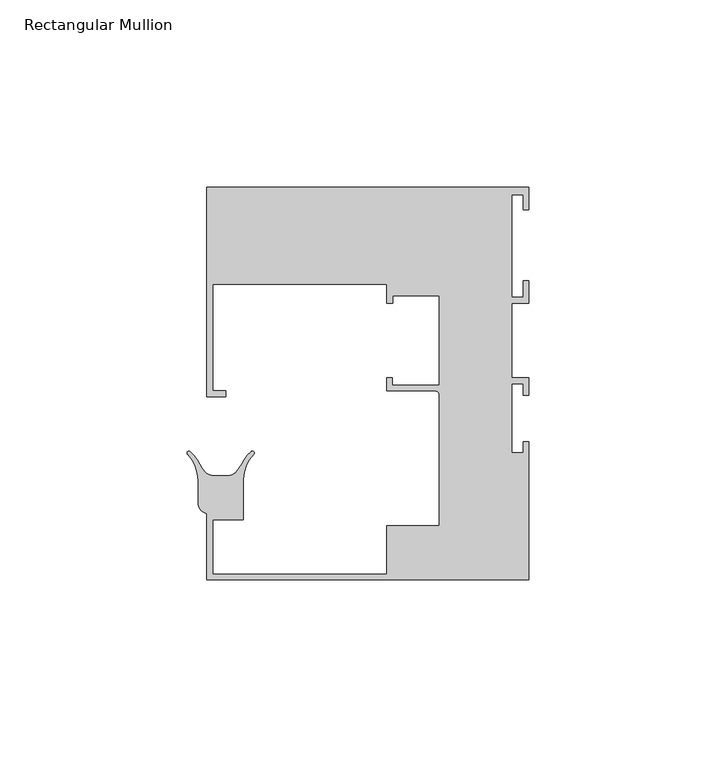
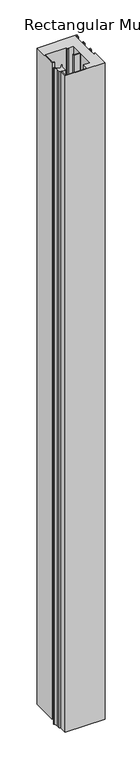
"""IFC4 building model written with IfcOpenShell, lengths in millimetres: member geometry, Rectangular Mullion : Danpal_Airpt_End-Mullion_B1."""

from ifc_helpers import new_model, si_unit, point, frame, frame_2d, origin, place, context, project, spatial, polyline, circle_curve, trimmed, segment, composite_curve, outline, extrude, source, transform, mapped, element, save


def rectangular_mullion_da8ff875(model_context):
    return source(origin(), model_context, "Body", "SweptSolid", [
        extrude(outline(composite_curve([segment(polyline([(-84.5, 44.249979), (-84.5, 15.7500001), (-81.0, 15.7500001), (-81.0, 14.2500001), (-86.0, 14.2500001), (-86.0, 70.2500001), (0.0, 70.2500001), (0.0, 64.2500001), (-1.5, 64.2500001), (-1.5, 68.2500001), (-4.5, 68.2500001), (-4.5, 40.7500001), (-1.5180937, 40.7500001), (-1.5180937, 45.2500001), (-0.0180937, 45.2500001), (-0.0180937, 39.2500001), (-4.5, 39.2500001), (-4.5, 19.25), (-0.0180922, 19.25), (-0.0180922, 14.65), (-1.5180922, 14.65), (-1.5180922, 17.65), (-4.5180922, 17.65), (-4.5180922, -0.75), (-1.5180922, -0.75), (-1.5180922, 2.25), (-0.0180922, 2.25), (-0.0180922, -34.75), (-86.0180914, -34.75), (-86.0180914, -17.0365625)]), True, "CONTINUOUS"), segment(trimmed(circle_curve(frame_2d((-85.366716, -14.1081309)), 3.0000002), [point((-86.0180914, -17.0365625))], [point((-88.3666989, -14.1183419))], False, "CARTESIAN"), True, "CONTINUOUS"), segment(polyline([(-88.3666989, -14.1183419), (-88.3666989, -8.1181379)]), True, "CONTINUOUS"), segment(trimmed(circle_curve(frame_2d((-98.3666403, -8.1523787)), 10.0), [point((-88.3666989, -8.1181379))], [point((-91.1789286, -1.1999114))], True, "CARTESIAN"), True, "CONTINUOUS"), segment(trimmed(circle_curve(frame_2d((-90.8194227, -0.8521716)), 0.5001675), [point((-91.1789286, -1.1999114))], [point((-90.4970116, -0.4697862))], False, "CARTESIAN"), True, "CONTINUOUS"), segment(trimmed(circle_curve(frame_2d((-96.9430732, -8.114934)), 9.9999998), [point((-90.4970116, -0.4697862))], [point((-87.9289412, -3.785336))], False, "CARTESIAN"), True, "CONTINUOUS"), segment(trimmed(circle_curve(frame_2d((-78.9148092, 0.544262)), 9.9999997), [point((-87.9289412, -3.785336))], [point((-86.6990305, -5.7331494))], True, "CARTESIAN"), True, "CONTINUOUS"), segment(trimmed(circle_curve(frame_2d((-84.363764, -3.8499259)), 3.0), [point((-86.6990305, -5.7331494))], [point((-84.363764, -6.8499259))], True, "CARTESIAN"), True, "CONTINUOUS"), segment(polyline([(-84.363764, -6.8499259), (-80.32512, -6.8499259)]), True, "CONTINUOUS"), segment(trimmed(circle_curve(frame_2d((-80.32512, -3.8499259)), 3.0), [point((-80.32512, -6.8499259))], [point((-77.9898528, -5.7331484))], True, "CARTESIAN"), True, "CONTINUOUS"), segment(trimmed(circle_curve(frame_2d((-85.7740768, 0.5442599)), 10.0), [point((-77.9898528, -5.7331484))], [point((-76.759944, -3.7853369))], True, "CARTESIAN"), True, "CONTINUOUS"), segment(trimmed(circle_curve(frame_2d((-67.7458114, -8.1149337)), 9.9999997), [point((-76.759944, -3.7853369))], [point((-74.1944462, -0.4719563))], False, "CARTESIAN"), True, "CONTINUOUS"), segment(trimmed(circle_curve(frame_2d((-73.8718016, -0.8543575)), 0.5003301), [point((-74.1944462, -0.4719563))], [point((-73.5120728, -1.2021009))], False, "CARTESIAN"), True, "CONTINUOUS"), segment(trimmed(circle_curve(frame_2d((-66.322244, -8.1523787)), 10.0), [point((-73.5120728, -1.2021009))], [point((-76.3180945, -7.8643287))], True, "CARTESIAN"), True, "CONTINUOUS"), segment(polyline([(-76.3180945, -7.8643287), (-76.3180945, -18.6499969), (-84.5180945, -18.6499969), (-84.5180945, -33.2499969), (-38.0180899, -33.2499969), (-38.0180899, -20.2499969), (-23.9180899, -20.2499969), (-23.9180899, 14.698377)]), True, "CONTINUOUS"), segment(trimmed(circle_curve(frame_2d((-24.969716, 14.698377)), 1.0516261), [point((-23.9180899, 14.698377))], [point((-24.969716, 15.7500031))], True, "CARTESIAN"), True, "CONTINUOUS"), segment(polyline([(-24.969716, 15.7500031), (-38.0180899, 15.7500031), (-38.0180899, 19.2500031), (-36.4180899, 19.2500031), (-36.4180899, 17.2500031), (-23.9180899, 17.2500031), (-23.9180899, 41.2500001), (-36.4, 41.2500001), (-36.4, 39.2500001), (-38.0, 39.2500001), (-38.0, 44.249979), (-84.5, 44.249979)]), True, "CONTINUOUS")], self_intersect=False)), frame((0.0, 0.0, -1500.0), z_axis=(0.0, 0.0, 1.0), x_axis=(1.0, 0.0, 0.0)), (0.0, 0.0, 1.0), 1500.0),
    ])


if __name__ == "__main__":
    model = new_model("IFC4")
    model_context = context("Model", 3, world=origin())
    ifc_project = project(units=[si_unit("LENGTHUNIT", "METRE", prefix="MILLI")], contexts=[model_context])
    site = spatial("IfcSite", under=ifc_project)
    building = spatial("IfcBuilding", under=site)
    placement = place(None, origin())
    rectangular_mullion_shape = rectangular_mullion_da8ff875(model_context)
    element("IfcMember", 1, ObjectType="Rectangular Mullion : Danpal_Airpt_End-Mullion_B1", at=placement, inside=building, context=model_context, shape_type="MappedRepresentation", body=[
        mapped(rectangular_mullion_shape, transform((0.0, 0.0, 0.0), x_axis=(1.0, 0.0, 0.0), y_axis=(0.0, 1.0, 0.0), z_axis=(0.0, 0.0, 1.0))),
    ])
    save(model, "model.ifc")
